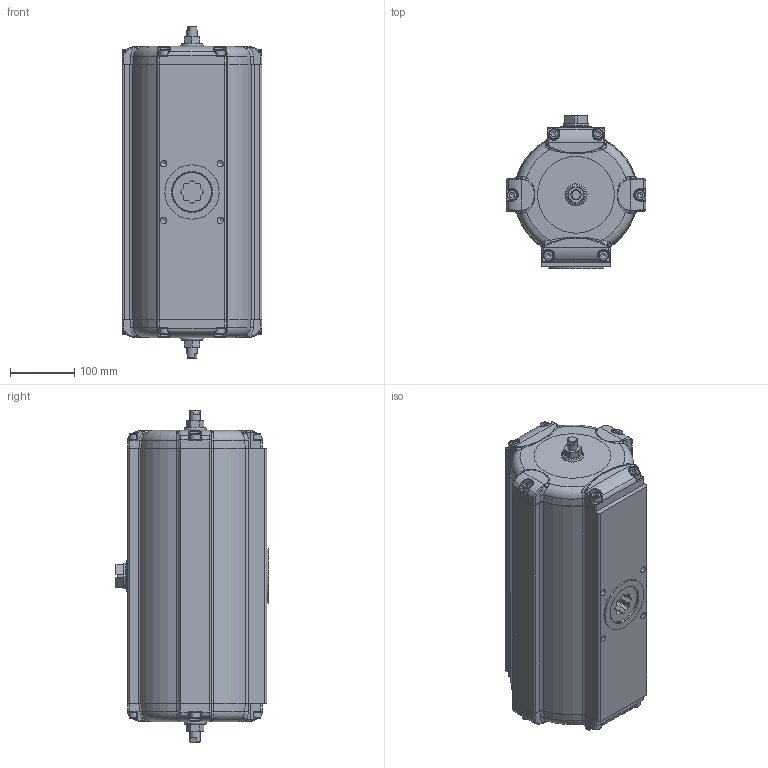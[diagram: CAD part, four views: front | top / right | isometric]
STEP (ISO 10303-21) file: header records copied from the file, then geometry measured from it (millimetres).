
FILE_DESCRIPTION((''),'2;1');
FILE_NAME('C:\Dokumente und Einstellungen\ko-p\Desktop\SAD_35-180°_BR03.stp','2011-02-03T10:38:53',('war'),(''),'Autodesk Inventor 2010','Autodesk Inventor 2010','');
FILE_SCHEMA(('AUTOMOTIVE_DESIGN { 1 0 10303 214 1 1 1 1 }'));
Length unit declared in the file: millimetre
Products named in the file (1): ENG-038316_Konturvereinfachung_1
Bounding box: 218 x 239.6 x 518.72 mm (x, y, z)
Surface area: 454321.6 mm2 (no closed solid volume)
Topology: 0 solids, 27 shells, 619 faces, 2081 edges, 1444 vertices
Faces by surface type: plane 240, bspline 183, cylinder 107, torus 53, cone 36
Full cylindrical faces by diameter (mm): 16 x14, 37 x1, 39.8 x1, 60 x1, 85 x1
Entity records: 34591 total; most frequent: CARTESIAN_POINT 18573, ORIENTED_EDGE 3106, DIRECTION 2647, EDGE_CURVE 1959, VERTEX_POINT 1399, AXIS2_PLACEMENT_3D 1033, EDGE_LOOP 738, B_SPLINE_CURVE_WITH_KNOTS 655
